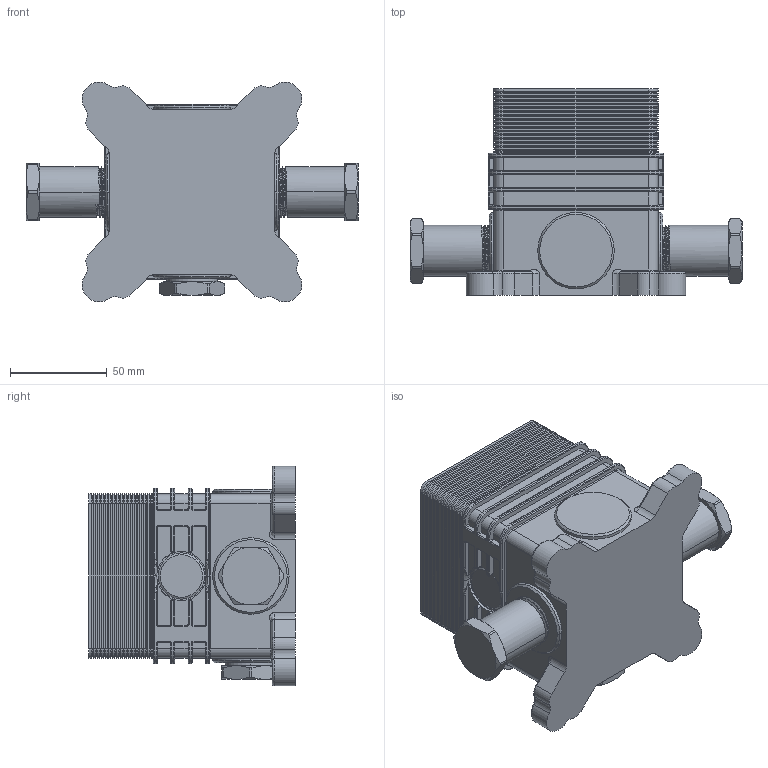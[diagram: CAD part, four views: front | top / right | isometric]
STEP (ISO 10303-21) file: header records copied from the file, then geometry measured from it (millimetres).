
FILE_DESCRIPTION((''),'2;1');
FILE_NAME('PRT0001','2025-06-25T10:25:32',('WB441'),(''),'CREO PARAMETRIC BY PTC INC, 2024133','CREO PARAMETRIC BY PTC INC, 2024133','');
FILE_SCHEMA(('CONFIG_CONTROL_DESIGN'));
Length unit declared in the file: millimetre
Products named in the file (1): PRT0001
Bounding box: 172 x 107 x 113.73 mm (x, y, z)
Volume: 870865.9 mm3; surface area: 80507.7 mm2
Topology: 1 solids, 1 shells, 1098 faces, 2544 edges, 1434 vertices
Faces by surface type: plane 356, cylinder 352, cone 176, bspline 126, torus 88
Entity records: 42068 total; most frequent: CARTESIAN_POINT 18085, ORIENTED_EDGE 5088, DIRECTION 4928, EDGE_CURVE 2544, AXIS2_PLACEMENT_3D 1829, VERTEX_POINT 1434, VECTOR 1270, LINE 1270
